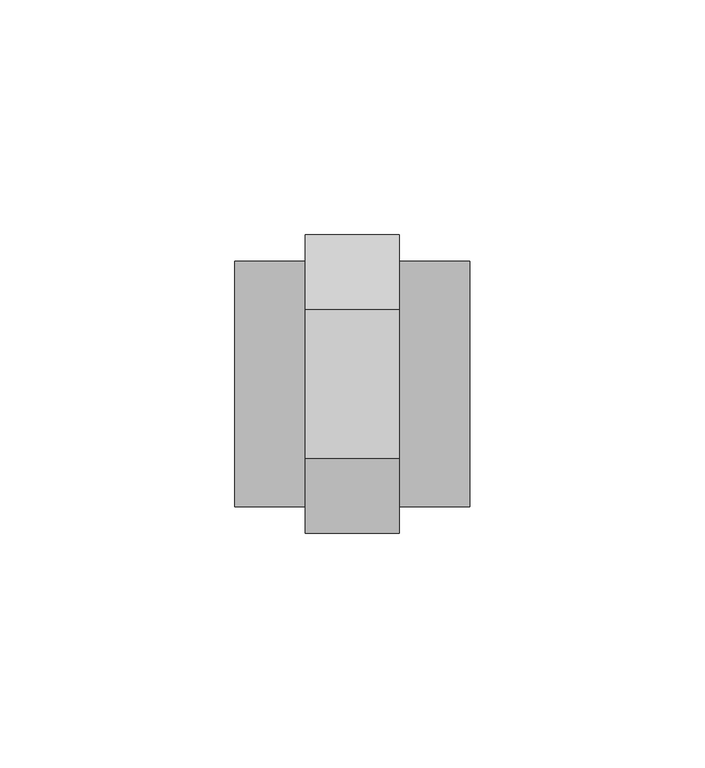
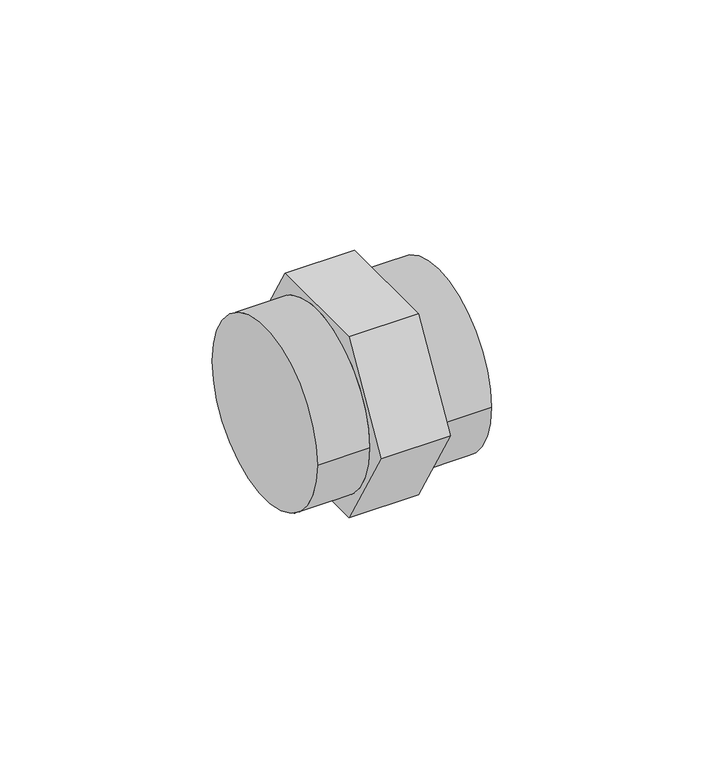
"""IFC4 building model written with IfcOpenShell, lengths in millimetres: pipe fitting geometry, 01101007 : Manchons FxF."""

from ifc_helpers import new_model, si_unit, frame, origin, place, context, project, spatial, circle_curve, source, transform, mapped, element, save
from ifc_brep_helpers import plane_surface, cylinder_surface, advanced_brep


def pipe_fitting_7ab199b3(model_context):
    return source(origin(), model_context, "Body", "AdvancedBrep", [
        advanced_brep(
        [(10.0, -15.8771324, 27.5), (10.0, -31.7542648, 0.0), (10.0, -15.8771324, -27.5), (10.0, 15.8771324, -27.5), (10.0, 31.7542648, 0.0), (10.0, 15.8771324, 27.5), (10.0, -26.125, 0.0), (10.0, 26.125, 0.0), (-10.0, -15.8771324, 27.5), (-10.0, 15.8771324, 27.5), (-10.0, 31.7542648, 0.0), (-10.0, 15.8771324, -27.5), (-10.0, -15.8771324, -27.5), (-10.0, -31.7542648, 0.0), (-10.0, 26.125, 0.0), (-10.0, -26.125, 0.0), (-25.0, -26.125, 0.0), (-25.0, 26.125, 0.0), (25.0, -26.125, 0.0), (25.0, 26.125, 0.0)],
        [
            (0, 1),
            (1, 2),
            (2, 3),
            (3, 4),
            (4, 5),
            (5, 0),
            (6, 7, circle_curve(frame((10.0, 0.0, 0.0), z_axis=(-1.0, 0.0, 0.0), x_axis=(0.0, 1.0, 0.0)), 26.125)),
            (7, 6, circle_curve(frame((10.0, 0.0, 0.0), z_axis=(-1.0, 0.0, 0.0), x_axis=(0.0, 1.0, 0.0)), 26.125)),
            (8, 9),
            (9, 10),
            (10, 11),
            (11, 12),
            (12, 13),
            (13, 8),
            (14, 15, circle_curve(frame((-10.0, 0.0, 0.0), z_axis=(1.0, 0.0, 0.0), x_axis=(0.0, 1.0, 0.0)), 26.125)),
            (15, 14, circle_curve(frame((-10.0, 0.0, 0.0), z_axis=(1.0, 0.0, 0.0), x_axis=(0.0, 1.0, 0.0)), 26.125)),
            (0, 8),
            (13, 1),
            (12, 2),
            (11, 3),
            (10, 4),
            (9, 5),
            (16, 17, circle_curve(frame((-25.0, 0.0, 0.0), z_axis=(-1.0, 0.0, 0.0), x_axis=(0.0, 1.0, 0.0)), 26.125)),
            (17, 16, circle_curve(frame((-25.0, 0.0, 0.0), z_axis=(-1.0, 0.0, 0.0), x_axis=(0.0, 1.0, 0.0)), 26.125)),
            (18, 19, circle_curve(frame((25.0, 0.0, 0.0), z_axis=(1.0, 0.0, 0.0), x_axis=(0.0, 1.0, 0.0)), 26.125)),
            (19, 18, circle_curve(frame((25.0, 0.0, 0.0), z_axis=(1.0, 0.0, 0.0), x_axis=(0.0, 1.0, 0.0)), 26.125)),
            (16, 15),
            (14, 17),
            (19, 7),
            (6, 18),
        ],
        [
            plane_surface(frame((10.0, -15.8771324, 27.5), z_axis=(1.0, 0.0, 0.0), x_axis=(0.0, -0.5000000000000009, -0.8660254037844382))),
            plane_surface(frame((-10.0, -15.8771324, 27.5), z_axis=(-1.0, 0.0, 0.0), x_axis=(0.0, 0.5000000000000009, 0.8660254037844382))),
            plane_surface(frame((10.0, -15.8771324, 27.5), z_axis=(0.0, -0.8660254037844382, 0.5000000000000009), x_axis=(-1.0, 0.0, 0.0))),
            plane_surface(frame((10.0, -31.7542648, 0.0), z_axis=(0.0, -0.866025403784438, -0.5000000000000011), x_axis=(-1.0, 0.0, 0.0))),
            plane_surface(frame((10.0, -15.8771324, -27.5), z_axis=(0.0, 0.0, -1.0), x_axis=(-1.0, 0.0, 0.0))),
            plane_surface(frame((10.0, 15.8771324, -27.5), z_axis=(0.0, 0.8660254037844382, -0.5000000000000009), x_axis=(-1.0, 0.0, 0.0))),
            plane_surface(frame((10.0, 31.7542648, 0.0), z_axis=(0.0, 0.866025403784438, 0.5000000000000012), x_axis=(-1.0, 0.0, 0.0))),
            plane_surface(frame((10.0, 15.8771324, 27.5), z_axis=(0.0, 0.0, 1.0), x_axis=(-1.0, 0.0, 0.0))),
            plane_surface(frame((-25.0, 0.0, 0.0), z_axis=(-1.0, 0.0, 0.0), x_axis=(0.0, 0.0, 1.0))),
            plane_surface(frame((25.0, 0.0, 0.0), z_axis=(1.0, 0.0, 0.0), x_axis=(0.0, 0.0, 1.0))),
            cylinder_surface(frame((-25.0, 0.0, 0.0), z_axis=(-1.0, 0.0, 0.0), x_axis=(0.0, 1.0, 0.0)), 26.125),
        ],
        [
            (0, [[1, 2, 3, 4, 5, 6], [7, 8]]),
            (1, [[9, 10, 11, 12, 13, 14], [15, 16]]),
            (2, [[-1, 17, -14, 18]]),
            (3, [[-2, -18, -13, 19]]),
            (4, [[-3, -19, -12, 20]]),
            (5, [[-4, -20, -11, 21]]),
            (6, [[-5, -21, -10, 22]]),
            (7, [[-6, -22, -9, -17]]),
            (8, [[23, 24]]),
            (9, [[25, 26]]),
            (10, [[-23, 27, -15, 28]]),
            (10, [[-26, 29, -7, 30]]),
            (10, [[-24, -28, -16, -27]]),
            (10, [[-25, -30, -8, -29]]),
        ],
    ),
    ])


if __name__ == "__main__":
    model = new_model("IFC4")
    model_context = context("Model", 3, world=origin())
    ifc_project = project(units=[si_unit("LENGTHUNIT", "METRE", prefix="MILLI")], contexts=[model_context])
    site = spatial("IfcSite", under=ifc_project)
    building = spatial("IfcBuilding", under=site)
    placement = place(None, origin())
    pipe_fitting_shape = pipe_fitting_7ab199b3(model_context)
    element("IfcPipeFitting", 1, ObjectType="01101007 : Manchons FxF", at=placement, inside=building, context=model_context, shape_type="MappedRepresentation", body=[
        mapped(pipe_fitting_shape, transform((0.0, 0.0, 0.0), x_axis=(1.0, 0.0, 0.0), y_axis=(0.0, 1.0, 0.0), z_axis=(0.0, 0.0, 1.0))),
    ])
    save(model, "model.ifc")
